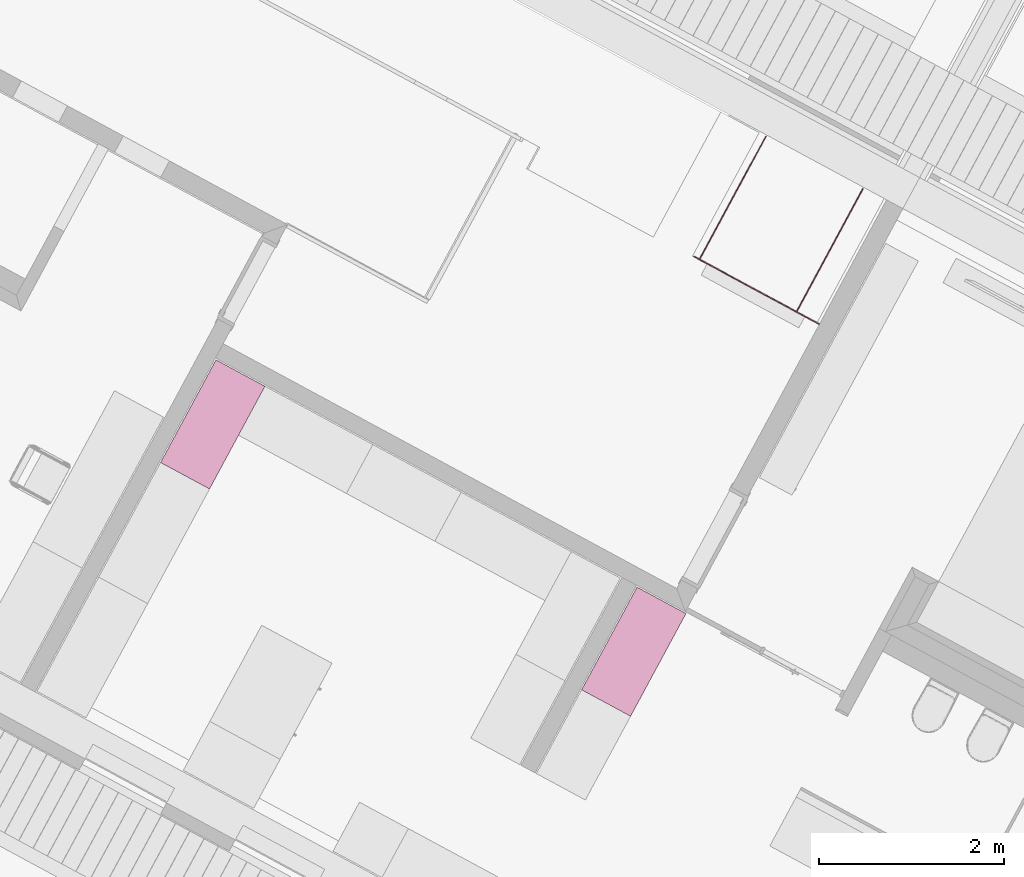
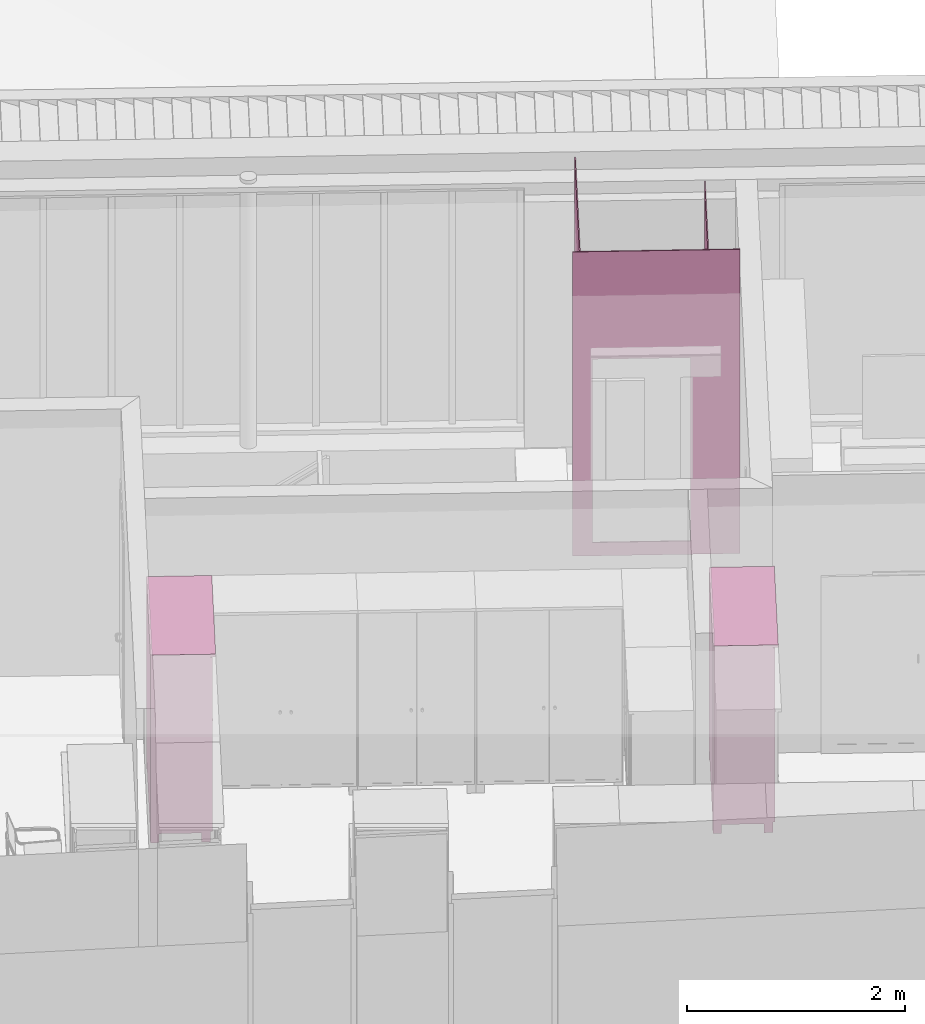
# One storey, part 23 of 41: 3 transport elements, 2 furnishings, 1 opening.
"""IFC2X3 building model written with IfcOpenShell, lengths in metres."""

from ifc_helpers import new_model, entity, si_unit, converted_unit, derived_unit, money_unit, direction, frame, origin_with_axes, origin_2d_with_axis, place, context, subcontext, project, spatial, polyline, rectangle, outline, extrude, faceted_brep, source, transform, mapped, material, type_object, element, save


model = new_model("IFC2X3")

# Units and contexts
model_context = context("Model", 3, precision=1e-05, world=origin_with_axes(), true_north=direction((0.0, 1.0)))
body_context = subcontext(model_context, "Body", "Model", "MODEL_VIEW")
ifc_project = project(units=[si_unit("LENGTHUNIT", "METRE"), si_unit("AREAUNIT", "SQUARE_METRE"), si_unit("VOLUMEUNIT", "CUBIC_METRE"), converted_unit("PLANEANGLEUNIT", "DEGREE", entity("IfcPlaneAngleMeasure", 0.0174532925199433), si_unit("PLANEANGLEUNIT", "RADIAN"), dimensions=[0, 0, 0, 0, 0, 0, 0]), money_unit("EUR"), converted_unit("TIMEUNIT", "Year", entity("IfcTimeMeasure", 31556926.0), si_unit("TIMEUNIT", "SECOND"), dimensions=[0, 0, 1, 0, 0, 0, 0]), si_unit("MASSUNIT", "GRAM", prefix="KILO"), si_unit("THERMODYNAMICTEMPERATUREUNIT", "DEGREE_CELSIUS"), si_unit("LUMINOUSINTENSITYUNIT", "LUMEN"), si_unit("ENERGYUNIT", "JOULE", prefix="MEGA"), derived_unit("THERMALCONDUCTANCEUNIT", [(si_unit("POWERUNIT", "WATT"), 1), (si_unit("LENGTHUNIT", "METRE"), -1), (si_unit("THERMODYNAMICTEMPERATUREUNIT", "KELVIN"), -1)]), derived_unit("SPECIFICHEATCAPACITYUNIT", [(si_unit("ENERGYUNIT", "JOULE"), 1), (si_unit("MASSUNIT", "GRAM", prefix="KILO"), -1), (si_unit("THERMODYNAMICTEMPERATUREUNIT", "KELVIN"), -1)]), derived_unit("MASSDENSITYUNIT", [(si_unit("MASSUNIT", "GRAM", prefix="KILO"), 1), (si_unit("VOLUMEUNIT", "CUBIC_METRE"), -1)])], contexts=[model_context])

# Site, building, storey
site_placement = place(None, frame((-3.949935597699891, 1.740105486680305, 0.0), z_axis=(0.0, 0.0, 1.0), x_axis=(0.8799804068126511, -0.475009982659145, 0.0)))
site = spatial("IfcSite", under=ifc_project, at=site_placement, Name="Gelände", CompositionType="ELEMENT")
building_placement = place(site_placement, origin_with_axes())
building = spatial("IfcBuilding", under=site, at=building_placement, Name="Gebäude", CompositionType="ELEMENT")
storey_placement = place(building_placement, frame((0.0, 0.0, 4.55), z_axis=(0.0, 0.0, 1.0), x_axis=(1.0, 0.0, 0.0)))
storey = spatial("IfcBuildingStorey", under=building, at=storey_placement, Name="Staffelgeschoss", CompositionType="ELEMENT", Elevation=4.55)

# Furnishings
furniture_type = type_object("IfcFurnitureType", Name="Kleiderschrank 22", AssemblyPlace="NOTDEFINED")
shared_shape = source(origin_with_axes(), body_context, "Body", "Brep", [
    faceted_brep([(-0.02000000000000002, 0.6000000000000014, 0.12), (-0.02000000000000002, 0.6000000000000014, 2.05), (-0.02000000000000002, 0.5800000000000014, 2.05), (-0.02000000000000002, 0.5800000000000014, 0.12), (-1.238534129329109, 0.6000000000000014, 0.12), (-1.238534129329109, 0.6000000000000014, 2.05), (-1.238534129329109, 0.5800000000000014, 2.05), (-1.238534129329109, 0.5800000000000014, 0.12)], [[[0, 1, 2, 3]], [[4, 5, 1, 0]], [[1, 5, 6, 2]], [[3, 2, 6, 7]], [[0, 3, 7, 4]], [[7, 6, 5, 4]]]),
    faceted_brep([(-1.258534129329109, 0.05000000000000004, 0.1), (-1.258534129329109, 0.6000000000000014, 0.1), (-1.238534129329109, 0.6000000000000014, 0.1), (-1.238534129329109, 0.05000000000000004, 0.1), (-1.258534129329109, 0.05000000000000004, 2.07), (-1.258534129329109, 0.6000000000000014, 2.07), (-1.238534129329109, 0.6000000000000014, 2.07), (-1.238534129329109, 0.05000000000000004, 2.07)], [[[0, 1, 2, 3]], [[0, 4, 5, 1]], [[1, 5, 6, 2]], [[2, 6, 7, 3]], [[3, 7, 4, 0]], [[7, 6, 5, 4]]]),
    faceted_brep([(-0.02, 0.05000000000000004, 0.1), (-0.02, 0.6000000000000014, 0.1), (0.0, 0.6000000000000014, 0.1), (0.0, 0.05000000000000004, 0.1), (-0.02, 0.05000000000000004, 2.07), (-0.02, 0.6000000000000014, 2.07), (0.0, 0.6000000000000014, 2.07), (0.0, 0.05000000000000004, 2.07)], [[[0, 1, 2, 3]], [[0, 4, 5, 1]], [[1, 5, 6, 2]], [[2, 6, 7, 3]], [[3, 7, 4, 0]], [[7, 6, 5, 4]]]),
    faceted_brep([(-1.238534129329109, 0.05000000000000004, 0.1), (-1.238534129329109, 0.6000000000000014, 0.1), (-0.02000000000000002, 0.6000000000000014, 0.1), (-0.02000000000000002, 0.05000000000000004, 0.1), (-1.238534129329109, 0.05000000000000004, 0.12), (-1.238534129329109, 0.6000000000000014, 0.12), (-0.02000000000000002, 0.6000000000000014, 0.12), (-0.02000000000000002, 0.05000000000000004, 0.12)], [[[0, 1, 2, 3]], [[0, 4, 5, 1]], [[1, 5, 6, 2]], [[2, 6, 7, 3]], [[3, 7, 4, 0]], [[7, 6, 5, 4]]]),
    faceted_brep([(-1.238534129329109, 0.05000000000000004, 2.05), (-1.238534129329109, 0.6000000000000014, 2.05), (-0.02000000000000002, 0.6000000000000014, 2.05), (-0.02000000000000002, 0.05000000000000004, 2.05), (-1.238534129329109, 0.05000000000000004, 2.07), (-1.238534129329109, 0.6000000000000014, 2.07), (-0.02000000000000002, 0.6000000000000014, 2.07), (-0.02000000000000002, 0.05000000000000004, 2.07)], [[[0, 1, 2, 3]], [[0, 4, 5, 1]], [[1, 5, 6, 2]], [[2, 6, 7, 3]], [[3, 7, 4, 0]], [[7, 6, 5, 4]]]),
    faceted_brep([(-1.258534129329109, 0.6000000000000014, 2.07), (-1.258534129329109, 0.0, 2.07), (-1.258534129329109, 0.0, 2.1), (-1.258534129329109, 0.6000000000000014, 2.1), (0.0, 0.6000000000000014, 2.07), (0.0, 0.0, 2.07), (0.0, 0.0, 2.1), (0.0, 0.6000000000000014, 2.1)], [[[0, 1, 2, 3]], [[0, 4, 5, 1]], [[1, 5, 6, 2]], [[3, 2, 6, 7]], [[4, 0, 3, 7]], [[5, 4, 7, 6]]]),
    faceted_brep([(-0.08000000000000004, 0.5200000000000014, 0.0), (-0.08000000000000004, 0.5200000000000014, 0.1), (-0.08000000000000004, 0.6000000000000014, 0.1), (-0.08000000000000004, 0.6000000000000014, 0.0), (0.0, 0.5200000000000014, 0.0), (0.0, 0.5200000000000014, 0.1), (0.0, 0.6000000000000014, 0.1), (0.0, 0.6000000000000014, 0.0)], [[[0, 1, 2, 3]], [[4, 5, 1, 0]], [[1, 5, 6, 2]], [[3, 2, 6, 7]], [[0, 3, 7, 4]], [[7, 6, 5, 4]]]),
    faceted_brep([(-1.258534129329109, 0.5200000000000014, 0.0), (-1.258534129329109, 0.5200000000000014, 0.1), (-1.258534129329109, 0.6000000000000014, 0.1), (-1.258534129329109, 0.6000000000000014, 0.0), (-1.178534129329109, 0.5200000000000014, 0.0), (-1.178534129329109, 0.5200000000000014, 0.1), (-1.178534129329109, 0.6000000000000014, 0.1), (-1.178534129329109, 0.6000000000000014, 0.0)], [[[0, 1, 2, 3]], [[4, 5, 1, 0]], [[1, 5, 6, 2]], [[3, 2, 6, 7]], [[0, 3, 7, 4]], [[7, 6, 5, 4]]]),
    faceted_brep([(-0.08000000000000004, 0.05000000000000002, 0.0), (-0.08000000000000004, 0.05000000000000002, 0.1), (-0.08000000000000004, 0.13, 0.1), (-0.08000000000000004, 0.13, 0.0), (0.0, 0.05000000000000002, 0.0), (0.0, 0.05000000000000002, 0.1), (0.0, 0.13, 0.1), (0.0, 0.13, 0.0)], [[[0, 1, 2, 3]], [[4, 5, 1, 0]], [[1, 5, 6, 2]], [[3, 2, 6, 7]], [[0, 3, 7, 4]], [[7, 6, 5, 4]]]),
    faceted_brep([(-1.258534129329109, 0.05000000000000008, 0.0), (-1.258534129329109, 0.05000000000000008, 0.1), (-1.258534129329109, 0.1300000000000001, 0.1), (-1.258534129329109, 0.1300000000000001, 0.0), (-1.178534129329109, 0.05000000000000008, 0.0), (-1.178534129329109, 0.05000000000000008, 0.1), (-1.178534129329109, 0.1300000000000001, 0.1), (-1.178534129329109, 0.1300000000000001, 0.0)], [[[0, 1, 2, 3]], [[4, 5, 1, 0]], [[1, 5, 6, 2]], [[3, 2, 6, 7]], [[0, 3, 7, 4]], [[7, 6, 5, 4]]]),
    faceted_brep([(-0.6287670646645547, 0.05, 0.1104999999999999), (-0.6287670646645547, 0.03, 0.1104999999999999), (-0.6287670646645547, 0.03000000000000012, 2.0595), (-0.6287670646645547, 0.05000000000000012, 2.0595), (-0.5987670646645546, 0.05, 0.1405), (-0.5987670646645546, 0.03000000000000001, 0.1405), (-0.5987670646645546, 0.03000000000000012, 2.0295), (-0.5987670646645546, 0.05000000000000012, 2.0295)], [[[0, 1, 2, 3]], [[4, 5, 1, 0]], [[1, 5, 6, 2]], [[3, 2, 6, 7]], [[0, 3, 7, 4]], [[7, 6, 5, 4]]]),
    faceted_brep([(-0.04049999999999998, 0.05, 0.1405), (-0.04049999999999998, 0.03000000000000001, 0.1405), (-0.04049999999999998, 0.03000000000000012, 2.0295), (-0.04049999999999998, 0.05000000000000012, 2.0295), (-0.01050000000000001, 0.05, 0.1104999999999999), (-0.01050000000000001, 0.03, 0.1104999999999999), (-0.01050000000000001, 0.03000000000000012, 2.0595), (-0.01050000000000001, 0.05000000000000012, 2.0595)], [[[0, 1, 2, 3]], [[4, 5, 1, 0]], [[1, 5, 6, 2]], [[3, 2, 6, 7]], [[0, 3, 7, 4]], [[7, 6, 5, 4]]]),
    faceted_brep([(-0.01050000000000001, 0.05, 0.1104999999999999), (-0.01050000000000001, 0.03, 0.1104999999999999), (-0.6287670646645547, 0.03, 0.1104999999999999), (-0.6287670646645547, 0.05, 0.1104999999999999), (-0.04049999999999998, 0.05, 0.1405), (-0.04049999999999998, 0.03000000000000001, 0.1405), (-0.5987670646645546, 0.03000000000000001, 0.1405), (-0.5987670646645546, 0.05, 0.1405)], [[[0, 1, 2, 3]], [[4, 5, 1, 0]], [[1, 5, 6, 2]], [[3, 2, 6, 7]], [[0, 3, 7, 4]], [[7, 6, 5, 4]]]),
    faceted_brep([(-0.04049999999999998, 0.05000000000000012, 2.0295), (-0.04049999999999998, 0.03000000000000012, 2.0295), (-0.5987670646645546, 0.03000000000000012, 2.0295), (-0.5987670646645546, 0.05000000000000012, 2.0295), (-0.01050000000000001, 0.05000000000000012, 2.0595), (-0.01050000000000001, 0.03000000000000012, 2.0595), (-0.6287670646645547, 0.03000000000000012, 2.0595), (-0.6287670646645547, 0.05000000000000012, 2.0595)], [[[0, 1, 2, 3]], [[4, 5, 1, 0]], [[1, 5, 6, 2]], [[3, 2, 6, 7]], [[0, 3, 7, 4]], [[7, 6, 5, 4]]]),
    faceted_brep([(-0.5987670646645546, 0.04500000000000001, 0.1405), (-0.5987670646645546, 0.035, 0.1405), (-0.5987670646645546, 0.03500000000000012, 2.0295), (-0.5987670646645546, 0.04500000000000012, 2.0295), (-0.04049999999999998, 0.04500000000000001, 0.1405), (-0.04049999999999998, 0.035, 0.1405), (-0.04049999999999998, 0.03500000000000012, 2.0295), (-0.04049999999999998, 0.04500000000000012, 2.0295)], [[[0, 1, 2, 3]], [[4, 5, 1, 0]], [[1, 5, 6, 2]], [[3, 2, 6, 7]], [[0, 3, 7, 4]], [[7, 6, 5, 4]]]),
    faceted_brep([(-0.5886593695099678, 0.035, 0.954), (-0.5902670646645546, 0.035, 0.96), (-0.5886593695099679, 0.035, 0.966), (-0.5842670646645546, 0.035, 0.9703923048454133), (-0.5782670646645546, 0.035, 0.972), (-0.5722670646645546, 0.035, 0.9703923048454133), (-0.5678747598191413, 0.035, 0.966), (-0.5662670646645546, 0.035, 0.96), (-0.5678747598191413, 0.035, 0.954), (-0.5722670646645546, 0.035, 0.9496076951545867), (-0.5782670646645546, 0.035, 0.948), (-0.5842670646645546, 0.035, 0.9496076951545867), (-0.5886593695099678, 0.01, 0.954), (-0.5902670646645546, 0.01, 0.96), (-0.5886593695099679, 0.01, 0.966), (-0.5842670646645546, 0.01, 0.9703923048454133), (-0.5782670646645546, 0.01, 0.972), (-0.5722670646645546, 0.01, 0.9703923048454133), (-0.5678747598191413, 0.01, 0.966), (-0.5662670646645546, 0.01, 0.96), (-0.5678747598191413, 0.01, 0.954), (-0.5722670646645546, 0.01, 0.9496076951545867), (-0.5782670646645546, 0.01, 0.948), (-0.5842670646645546, 0.01, 0.9496076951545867)], [[[0, 1, 2, 3, 4, 5, 6, 7, 8, 9, 10, 11]], [[0, 12, 13, 1]], [[1, 13, 14, 2]], [[2, 14, 15, 3]], [[3, 15, 16, 4]], [[4, 16, 17, 5]], [[5, 17, 18, 6]], [[6, 18, 19, 7]], [[7, 19, 20, 8]], [[8, 20, 21, 9]], [[9, 21, 22, 10]], [[10, 22, 23, 11]], [[11, 23, 12, 0]], [[12, 23, 22, 21, 20, 19, 18, 17, 16, 15, 14, 13]]]),
    faceted_brep([(-1.249034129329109, 0.05, 0.1104999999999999), (-1.249034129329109, 0.03, 0.1104999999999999), (-1.249034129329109, 0.03000000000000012, 2.0595), (-1.249034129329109, 0.05000000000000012, 2.0595), (-1.219034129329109, 0.05, 0.1405), (-1.219034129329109, 0.03000000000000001, 0.1405), (-1.219034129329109, 0.03000000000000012, 2.0295), (-1.219034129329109, 0.05000000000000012, 2.0295)], [[[0, 1, 2, 3]], [[4, 5, 1, 0]], [[1, 5, 6, 2]], [[3, 2, 6, 7]], [[0, 3, 7, 4]], [[7, 6, 5, 4]]]),
    faceted_brep([(-0.6607670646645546, 0.05, 0.1405), (-0.6607670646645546, 0.03000000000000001, 0.1405), (-0.6607670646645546, 0.03000000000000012, 2.0295), (-0.6607670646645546, 0.05000000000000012, 2.0295), (-0.6307670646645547, 0.05, 0.1104999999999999), (-0.6307670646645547, 0.03, 0.1104999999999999), (-0.6307670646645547, 0.03000000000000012, 2.0595), (-0.6307670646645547, 0.05000000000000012, 2.0595)], [[[0, 1, 2, 3]], [[4, 5, 1, 0]], [[1, 5, 6, 2]], [[3, 2, 6, 7]], [[0, 3, 7, 4]], [[7, 6, 5, 4]]]),
    faceted_brep([(-0.6307670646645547, 0.05, 0.1104999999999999), (-0.6307670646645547, 0.03, 0.1104999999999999), (-1.249034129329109, 0.03, 0.1104999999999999), (-1.249034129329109, 0.05, 0.1104999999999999), (-0.6607670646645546, 0.05, 0.1405), (-0.6607670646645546, 0.03000000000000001, 0.1405), (-1.219034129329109, 0.03000000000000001, 0.1405), (-1.219034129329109, 0.05, 0.1405)], [[[0, 1, 2, 3]], [[4, 5, 1, 0]], [[1, 5, 6, 2]], [[3, 2, 6, 7]], [[0, 3, 7, 4]], [[7, 6, 5, 4]]]),
    faceted_brep([(-0.6607670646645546, 0.05000000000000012, 2.0295), (-0.6607670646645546, 0.03000000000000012, 2.0295), (-1.219034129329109, 0.03000000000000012, 2.0295), (-1.219034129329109, 0.05000000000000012, 2.0295), (-0.6307670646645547, 0.05000000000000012, 2.0595), (-0.6307670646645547, 0.03000000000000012, 2.0595), (-1.249034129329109, 0.03000000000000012, 2.0595), (-1.249034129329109, 0.05000000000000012, 2.0595)], [[[0, 1, 2, 3]], [[4, 5, 1, 0]], [[1, 5, 6, 2]], [[3, 2, 6, 7]], [[0, 3, 7, 4]], [[7, 6, 5, 4]]]),
    faceted_brep([(-1.219034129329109, 0.04500000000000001, 0.1405), (-1.219034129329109, 0.04000000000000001, 0.1405), (-1.219034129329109, 0.04000000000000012, 2.0295), (-1.219034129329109, 0.04500000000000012, 2.0295), (-0.6607670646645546, 0.04500000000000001, 0.1405), (-0.6607670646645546, 0.04000000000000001, 0.1405), (-0.6607670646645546, 0.04000000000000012, 2.0295), (-0.6607670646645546, 0.04500000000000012, 2.0295)], [[[0, 1, 2, 3]], [[4, 5, 1, 0]], [[1, 5, 6, 2]], [[3, 2, 6, 7]], [[0, 3, 7, 4]], [[7, 6, 5, 4]]]),
    faceted_brep([(-1.219034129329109, 0.04000000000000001, 0.1405), (-1.219034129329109, 0.03500000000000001, 0.1405), (-1.219034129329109, 0.03500000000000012, 2.0295), (-1.219034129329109, 0.04000000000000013, 2.0295), (-0.6607670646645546, 0.04000000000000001, 0.1405), (-0.6607670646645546, 0.03500000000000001, 0.1405), (-0.6607670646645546, 0.03500000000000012, 2.0295), (-0.6607670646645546, 0.04000000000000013, 2.0295)], [[[0, 1, 2, 3]], [[4, 5, 1, 0]], [[1, 5, 6, 2]], [[3, 2, 6, 7]], [[0, 3, 7, 4]], [[7, 6, 5, 4]]]),
    faceted_brep([(-0.6698747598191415, 0.035, 0.954), (-0.6742670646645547, 0.035, 0.9496076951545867), (-0.6802670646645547, 0.035, 0.948), (-0.6862670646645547, 0.035, 0.9496076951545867), (-0.690659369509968, 0.035, 0.954), (-0.6922670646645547, 0.035, 0.96), (-0.690659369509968, 0.035, 0.966), (-0.6862670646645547, 0.035, 0.9703923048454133), (-0.6802670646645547, 0.035, 0.972), (-0.6742670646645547, 0.035, 0.9703923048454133), (-0.6698747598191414, 0.035, 0.966), (-0.6682670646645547, 0.035, 0.96), (-0.6698747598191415, 0.01, 0.954), (-0.6742670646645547, 0.01, 0.9496076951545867), (-0.6802670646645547, 0.01, 0.948), (-0.6862670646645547, 0.01, 0.9496076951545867), (-0.690659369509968, 0.01, 0.954), (-0.6922670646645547, 0.01, 0.96), (-0.690659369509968, 0.01, 0.966), (-0.6862670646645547, 0.01, 0.9703923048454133), (-0.6802670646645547, 0.01, 0.972), (-0.6742670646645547, 0.01, 0.9703923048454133), (-0.6698747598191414, 0.01, 0.966), (-0.6682670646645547, 0.01, 0.96)], [[[0, 1, 2, 3, 4, 5, 6, 7, 8, 9, 10, 11]], [[1, 0, 12, 13]], [[2, 1, 13, 14]], [[3, 2, 14, 15]], [[4, 3, 15, 16]], [[5, 4, 16, 17]], [[6, 5, 17, 18]], [[7, 6, 18, 19]], [[8, 7, 19, 20]], [[9, 8, 20, 21]], [[10, 9, 21, 22]], [[11, 10, 22, 23]], [[0, 11, 23, 12]], [[12, 23, 22, 21, 20, 19, 18, 17, 16, 15, 14, 13]]]),
])
for number, where, z_axis, x_axis, name in (
    (1, (12.22319561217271, 5.70306071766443, 0.0), (0.0, 0.0, 1.0), (0.0, 1.0, 0.0), "Objekt-0066"),
    (2, (17.38349488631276, 5.70306071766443, 0.0), (0.0, 0.0, 1.0), (0.0, 1.0, 0.0), "Objekt-0066"),
):
    element("IfcFurnishingElement", number, at=place(storey_placement, frame(where, z_axis=z_axis, x_axis=x_axis)), inside=storey, type_object=furniture_type, Name=name, ObjectType="FURNITURE", context=body_context, shape_type="MappedRepresentation", body=[
        mapped(shared_shape, transform((0.0, 0.0, 0.0))),
    ])

# Transport elements
ifc_material = material(Name="Glas, Normalglas")
transport_element_type = type_object("IfcTransportElementType", Name="Glas, Normalglas 10", PredefinedType="ELEVATOR")
transport_element_1_placement = place(storey_placement, frame((16.89157746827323, 9.127800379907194, -0.1500000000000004), z_axis=(0.0, 0.0, 1.0), x_axis=(-9.806387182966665e-07, 0.9999999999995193, 0.0)))
element("IfcTransportElement", 3, at=transport_element_1_placement, inside=storey, type_object=transport_element_type, material=ifc_material, Name="Aufzug6", ObjectType="ELEVATOR", context=body_context, shape_type="SweptSolid", body=[
    extrude(outline(polyline([(0.00999999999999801, 0.0), (1.51499935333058, 0.0), (1.51499935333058, 0.00999999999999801), (0.01000000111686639, 0.00999999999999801), (0.00999999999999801, 0.0)])), origin_with_axes(), (0.0, 0.0, 1.0), 3.114),
])
transport_element_2_placement = place(storey_placement, frame((15.69249576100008, 10.64280067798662, -0.1500000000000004), z_axis=(0.0, 0.0, 1.0), x_axis=(-1.75109644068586e-07, -0.9999999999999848, 0.0)))
element("IfcTransportElement", 4, at=transport_element_2_placement, inside=storey, type_object=transport_element_type, material=ifc_material, Name="Aufzug4", ObjectType="ELEVATOR", context=body_context, shape_type="SweptSolid", body=[
    extrude(outline(polyline([(0.0, 0.0), (1.505001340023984, 0.0), (1.505001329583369, 0.009999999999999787), (0.0, 0.009999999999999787), (0.0, 0.0)])), origin_with_axes(), (0.0, 0.0, 1.0), 3.405),
])

# Transport element, opening
transport_element_3_placement = place(storey_placement, frame((15.62880693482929, 9.127799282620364, -0.1500000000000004), z_axis=(0.0, 0.0, 1.0), x_axis=(0.9999999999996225, 8.689518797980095e-07, 0.0)))
transport_element_3 = element("IfcTransportElement", 5, at=transport_element_3_placement, inside=storey, type_object=transport_element_type, material=ifc_material, Name="Aufzug5", ObjectType="ELEVATOR", context=body_context, shape_type="SweptSolid", body=[
    extrude(outline(polyline([(0.0, 0.0), (1.538686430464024, 0.0), (1.538686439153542, 0.009999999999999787), (0.0, 0.009999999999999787), (0.0, 0.0)])), origin_with_axes(), (0.0, 0.0, 1.0), 3.405),
])
opening_placement = place(transport_element_3_placement, frame((0.6342390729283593, 0.0, 0.1500000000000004), z_axis=(0.0, 0.0, 1.0), x_axis=(1.0, 0.0, 0.0)))
element("IfcOpeningElement", 6, at=opening_placement, cuts=transport_element_3, Name="Tür-011", context=body_context, shape_type="SweptSolid", body=[
    extrude(rectangle(XDim=0.9000000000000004, YDim=2.05, at=origin_2d_with_axis()), frame((8.689756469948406e-09, 0.009999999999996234, 1.024999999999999), z_axis=(8.689518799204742e-07, 0.9999999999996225, 0.0), x_axis=(0.9999999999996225, -8.689518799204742e-07, 0.0)), (0.0, 0.0, -1.0), 0.03),
])

save(model, "model.ifc")
